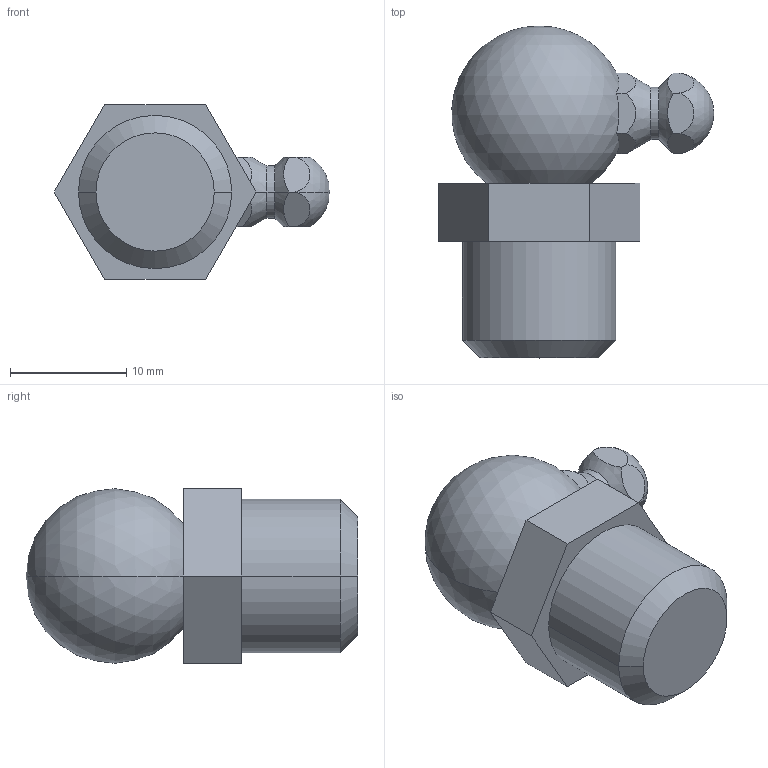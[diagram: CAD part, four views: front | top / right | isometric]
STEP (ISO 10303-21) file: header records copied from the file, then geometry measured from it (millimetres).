
FILE_DESCRIPTION((''),'2;1');
FILE_NAME('0022172','2016-05-24T',('lpini'),(''),'PRO/ENGINEER BY PARAMETRIC TECHNOLOGY CORPORATION, 2015030','PRO/ENGINEER BY PARAMETRIC TECHNOLOGY CORPORATION, 2015030','');
FILE_SCHEMA(('AUTOMOTIVE_DESIGN { 1 0 10303 214 1 1 1 1 }'));
Length unit declared in the file: millimetre
Products named in the file (1): 0022172
Bounding box: 23.66 x 28.5 x 15 mm (x, y, z)
Volume: 4195.2 mm3; surface area: 1731.7 mm2
Topology: 1 solids, 1 shells, 35 faces, 85 edges, 50 vertices
Faces by surface type: plane 21, cone 6, cylinder 4, sphere 4
Entity records: 1356 total; most frequent: CARTESIAN_POINT 504, DIRECTION 168, ORIENTED_EDGE 162, EDGE_CURVE 81, AXIS2_PLACEMENT_3D 64, VERTEX_POINT 50, VECTOR 40, LINE 40
